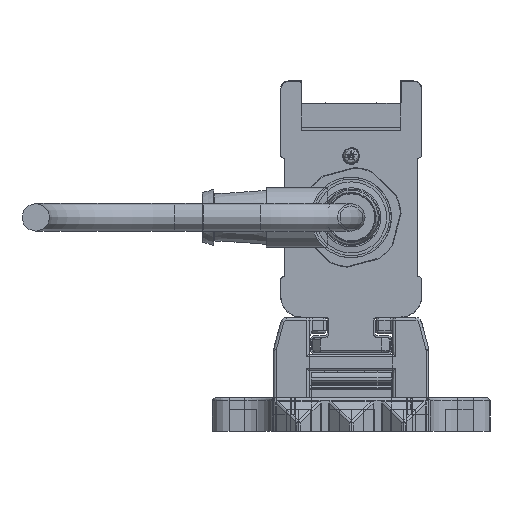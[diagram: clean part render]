
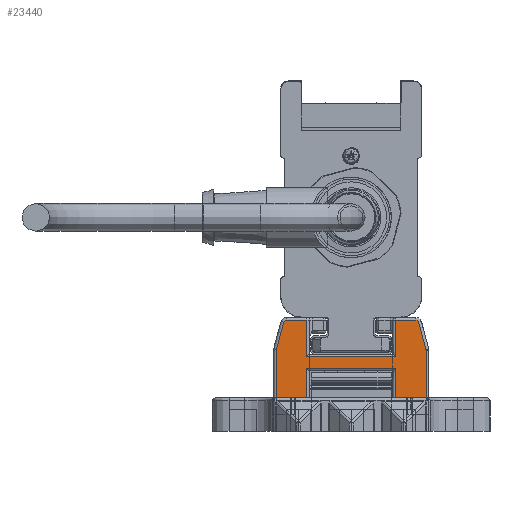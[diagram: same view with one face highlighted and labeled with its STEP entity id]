
A CAD part, left-side view. The second image highlights one B-rep face of the part: STEP entity #23440.
In plain terms, the highlighted planar face has unit normal (-1, 0, 0).
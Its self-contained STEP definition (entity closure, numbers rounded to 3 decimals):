
#23440=ADVANCED_FACE('', (#23450), #23460, .T.);
#165170=AXIS2_PLACEMENT_3D('Ax2Pl3d', #165180, #165190, #165200);
#165410=AXIS2_PLACEMENT_3D('Ax2Pl3d', #165420, #165430, #165440);
#170290=AXIS2_PLACEMENT_3D('Ax2Pl3d', #170300, #170310, #170320);
#175370=AXIS2_PLACEMENT_3D('Ax2Pl3d', #175380, #175390, #175400);
#185050=AXIS2_PLACEMENT_3D('Ax2Pl3d', #185060, #185070, #185080);
#714080=CARTESIAN_POINT('', (-747.669,-4406.345,
331.37));
#165180=CARTESIAN_POINT('HicPkt', (-747.669,-4405.379,
331.111));
#714090=CARTESIAN_POINT('', (-747.669,-4406.379,331.111)
);
#714100=CARTESIAN_POINT('', (-747.669,-4405.037,
336.255));
#714120=CARTESIAN_POINT('', (-747.669,-4405.037,
336.255));
#714150=CARTESIAN_POINT('', (-747.669,-4404.554,
336.625));
#165420=CARTESIAN_POINT('HicPkt', (-747.669,-4404.554,
336.125));
#714370=CARTESIAN_POINT('', (-747.669,-4406.379,322.625)
);
#714380=CARTESIAN_POINT('', (-747.669,-4400.881,322.625)
);
#714390=CARTESIAN_POINT('', (-747.669,-4400.881,322.625)
);
#714470=CARTESIAN_POINT('', (-747.669,-4384.881,322.625)
);
#714480=CARTESIAN_POINT('', (-747.669,-4379.383,322.625)
);
#714490=CARTESIAN_POINT('', (-747.669,-4379.383,322.625)
);
#170300=CARTESIAN_POINT('HicPkt', (-747.669,-4381.209,
336.125));
#716960=CARTESIAN_POINT('', (-747.669,-4380.726,
336.255));
#716970=CARTESIAN_POINT('', (-747.669,-4381.209,
336.625));
#716980=CARTESIAN_POINT('', (-747.669,-4400.881,
330.025));
#716990=CARTESIAN_POINT('', (-747.669,-4384.881,
330.025));
#717000=CARTESIAN_POINT('', (-747.669,-4400.881,
330.025));
#717160=CARTESIAN_POINT('', (-747.669,-4400.881,
328.005));
#717170=CARTESIAN_POINT('', (-747.669,-4384.881,
328.005));
#717180=CARTESIAN_POINT('', (-747.669,-4384.881,
328.005));
#717190=CARTESIAN_POINT('', (-747.669,-4400.881,
328.005));
#717210=CARTESIAN_POINT('', (-747.669,-4384.881,322.625)
);
#717220=CARTESIAN_POINT('', (-747.669,-4384.881,
330.025));
#717230=CARTESIAN_POINT('', (-747.669,-4384.881,
336.625));
#718080=CARTESIAN_POINT('', (-747.669,-4384.881,
336.625));
#718090=CARTESIAN_POINT('', (-747.669,-4380.726,
336.255));
#718100=CARTESIAN_POINT('', (-747.669,-4379.417,
331.37));
#718290=CARTESIAN_POINT('', (-747.669,-4379.383,331.111)
);
#718300=CARTESIAN_POINT('', (-747.669,-4379.383,331.111)
);
#175380=CARTESIAN_POINT('HicPkt', (-747.669,-4380.383,
331.111));
#719110=CARTESIAN_POINT('', (-747.669,-4406.379,331.111)
);
#185060=CARTESIAN_POINT('HicPkt', (-747.669,-4404.554,
336.625));
#720910=CARTESIAN_POINT('', (-747.669,-4400.881,
336.625));
#720920=CARTESIAN_POINT('', (-747.669,-4400.881,
336.625));
#720930=CARTESIAN_POINT('', (-747.669,-4400.881,
336.625));
#828200=CIRCLE('Circle', #165170, 1.);
#828240=CIRCLE('Circle', #165410, 0.5);
#828820=CIRCLE('Circle', #170290, 0.5);
#829350=CIRCLE('Circle', #175370, 1.);
#165190=DIRECTION('Axis', (-1.,0.,
0.));
#165200=DIRECTION('RefDirection', (0.,
0.,-1.));
#1155220=DIRECTION('', (0.,0.259,
0.966));
#165430=DIRECTION('Axis', (-1.,0.,
0.));
#165440=DIRECTION('RefDirection', (0.,
0.,-1.));
#1155330=DIRECTION('', (0.,1.,0.));
#1155370=DIRECTION('', (0.,1.,0.));
#170310=DIRECTION('Axis', (1.,0.,
0.));
#170320=DIRECTION('RefDirection', (0.,
0.,-1.));
#1156560=DIRECTION('', (0.,-1.,0.));
#1156660=DIRECTION('', (0.,1.,0.));
#1156670=DIRECTION('', (0.,0.,1.));
#1156690=DIRECTION('', (0.,0.,-1.));
#1156700=DIRECTION('', (0.,0.,-1.));
#1157130=DIRECTION('', (0.,-1.,0.))
;
#1157140=DIRECTION('', (0.,-0.259,0.966));
#1157230=DIRECTION('', (0.,0.,1.));
#175390=DIRECTION('Axis', (1.,0.,
0.));
#175400=DIRECTION('RefDirection', (0.,
0.,-1.));
#1157600=DIRECTION('', (0.,0.,1.));
#185070=DIRECTION('Axis', (-1.,0.,
0.));
#185080=DIRECTION('RefDirection', (0.,
0.,-1.));
#1158440=DIRECTION('', (0.,1.,0.));
#1158450=DIRECTION('', (0.,0.,1.));
#1233130=EDGE_CURVE('', #1233140, #1233120, #828200, .T.);
#1233190=EDGE_CURVE('', #1233120, #1233170, #1233200, .T.);
#1233260=EDGE_CURVE('', #1233170, #1233250, #828240, .T.);
#1233710=EDGE_CURVE('', #1233700, #1233720, #1233730, .T.);
#1233870=EDGE_CURVE('', #1233860, #1233880, #1233890, .T.);
#1238230=EDGE_CURVE('', #1238240, #1238250, #828820, .T.);
#1238280=EDGE_CURVE('', #1238290, #1238300, #1238310, .T.);
#1238650=EDGE_CURVE('', #1238630, #1238660, #1238670, .T.);
#1238700=EDGE_CURVE('', #1233720, #1238630, #1238710, .T.);
#1238740=EDGE_CURVE('', #1238660, #1233860, #1238750, .T.);
#1238760=EDGE_CURVE('', #1238770, #1238290, #1238780, .T.);
#1240600=EDGE_CURVE('', #1238250, #1238770, #1240610, .T.);
#1240670=EDGE_CURVE('', #1240680, #1238240, #1240690, .T.);
#1241110=EDGE_CURVE('', #1233880, #1241120, #1241130, .T.);
#1241150=EDGE_CURVE('', #1241120, #1240680, #829350, .T.);
#1242860=EDGE_CURVE('', #1233700, #1233140, #1242870, .T.);
#1246670=EDGE_CURVE('', #1233250, #1246680, #1246690, .T.);
#1246700=EDGE_CURVE('', #1238300, #1246680, #1246710, .T.);
#1483650=EDGE_LOOP('Edge_loop', (#1483660,#1483670,#1483680,#1483690,
#1483700,#1483710,#1483720,#1483730,#1483740,#1483750,#1483760,
#1483770,#1483780,#1483790,#1483800,#1483810,#1483820,#1483830));
#23450=FACE_OUTER_BOUND('Face_outer_bound', #1483650, .T.);
#1233200=LINE('Line', #714120, #1704690);
#1233730=LINE('Line', #714380, #1704800);
#1233890=LINE('Line', #714480, #1704840);
#1238310=LINE('Line', #716980, #1706030);
#1238670=LINE('Line', #717170, #1706130);
#1238710=LINE('Line', #717190, #1706140);
#1238750=LINE('Line', #717210, #1706160);
#1238780=LINE('Line', #717220, #1706170);
#1240610=LINE('Line', #718080, #1706600);
#1240690=LINE('Line', #718090, #1706610);
#1241130=LINE('Line', #718290, #1706700);
#1242870=LINE('Line', #719110, #1707070);
#1246690=LINE('Line', #720910, #1707910);
#1246710=LINE('Line', #720930, #1707920);
#1483660=ORIENTED_EDGE('', *, *, #1246670, .T.);
#1483670=ORIENTED_EDGE('', *, *, #1246700, .F.);
#1483680=ORIENTED_EDGE('', *, *, #1238280, .F.);
#1483690=ORIENTED_EDGE('', *, *, #1238760, .F.);
#1483700=ORIENTED_EDGE('', *, *, #1240600, .F.);
#1483710=ORIENTED_EDGE('', *, *, #1238230, .F.);
#1483720=ORIENTED_EDGE('', *, *, #1240670, .F.);
#1483730=ORIENTED_EDGE('', *, *, #1241150, .F.);
#1483740=ORIENTED_EDGE('', *, *, #1241110, .F.);
#1483750=ORIENTED_EDGE('', *, *, #1233870, .F.);
#1483760=ORIENTED_EDGE('', *, *, #1238740, .F.);
#1483770=ORIENTED_EDGE('', *, *, #1238650, .F.);
#1483780=ORIENTED_EDGE('', *, *, #1238700, .F.);
#1483790=ORIENTED_EDGE('', *, *, #1233710, .F.);
#1483800=ORIENTED_EDGE('', *, *, #1242860, .T.);
#1483810=ORIENTED_EDGE('', *, *, #1233130, .T.);
#1483820=ORIENTED_EDGE('', *, *, #1233190, .T.);
#1483830=ORIENTED_EDGE('', *, *, #1233260, .T.);
#23460=PLANE('Plane', #185050);
#1704690=VECTOR('', #1155220, 5.057);
#1704800=VECTOR('', #1155330, 5.498);
#1704840=VECTOR('', #1155370, 5.498);
#1706030=VECTOR('', #1156560, 16.);
#1706130=VECTOR('', #1156660, 16.);
#1706140=VECTOR('', #1156670, 5.38);
#1706160=VECTOR('', #1156690, 5.38);
#1706170=VECTOR('', #1156700, 6.6);
#1706600=VECTOR('', #1157130, 3.672);
#1706610=VECTOR('', #1157140, 5.057);
#1706700=VECTOR('', #1157230, 8.486);
#1707070=VECTOR('', #1157600, 8.486);
#1707910=VECTOR('', #1158440, 3.672);
#1707920=VECTOR('', #1158450, 6.6);
#1233120=VERTEX_POINT('', #714080);
#1233140=VERTEX_POINT('', #714090);
#1233170=VERTEX_POINT('', #714100);
#1233250=VERTEX_POINT('', #714150);
#1233700=VERTEX_POINT('', #714370);
#1233720=VERTEX_POINT('', #714390);
#1233860=VERTEX_POINT('', #714470);
#1233880=VERTEX_POINT('', #714490);
#1238240=VERTEX_POINT('', #716960);
#1238250=VERTEX_POINT('', #716970);
#1238290=VERTEX_POINT('', #716990);
#1238300=VERTEX_POINT('', #717000);
#1238630=VERTEX_POINT('', #717160);
#1238660=VERTEX_POINT('', #717180);
#1238770=VERTEX_POINT('', #717230);
#1240680=VERTEX_POINT('', #718100);
#1241120=VERTEX_POINT('', #718300);
#1246680=VERTEX_POINT('', #720920);
